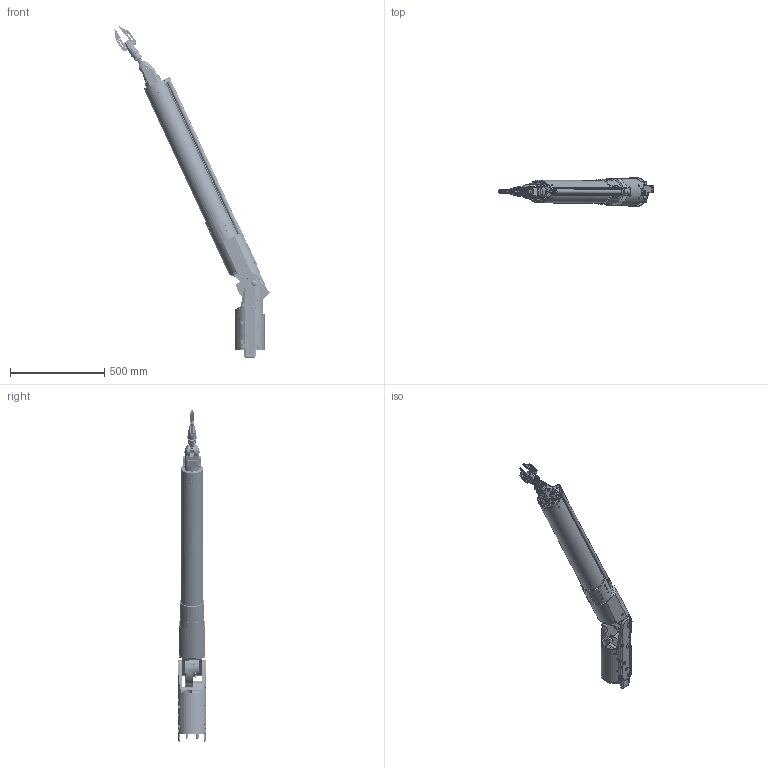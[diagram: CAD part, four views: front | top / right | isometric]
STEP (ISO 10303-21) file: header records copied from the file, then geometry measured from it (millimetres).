
FILE_DESCRIPTION( ( 'STEP AP214' ), '1' );
FILE_NAME( 'J:/SIT/Affaires 2006/06126/BRAS PYTHON 3.30 v2.step', '2006-12-21T08:14:20', ( ' ' ), ( ' ' ), 'XStep 1.0', ' ', ' ' );
FILE_SCHEMA( ( 'automotive_design' ) );
Length unit declared in the file: millimetre
Products named in the file (14): 1; 28; 116; 121; 239; 266; 267; 268; 269; 270; 271; 286; 383; 517
Bounding box: 824.02 x 150 x 1759.27 mm (x, y, z)
Volume: 12298325 mm3; surface area: 3119148 mm2
Topology: 14 solids, 80 shells, 7407 faces, 15191 edges, 8175 vertices
Faces by surface type: plane 5717, cylinder 1226, cone 369, torus 43, bspline 31, sphere 21
Full cylindrical faces by diameter (mm): 1 x2, 2 x6, 2.05 x6, 2.48 x2, 2.5 x9, 2.6 x2, 2.98 x16, 3 x15, 3.3 x33, 3.4 x30, 4 x52, 4.2 x11, 4.5 x42, 4.8 x3, 5 x26, 5.01 x26, 5.5 x44, 6 x9, 6.5 x3, 6.6 x16, 6.75 x3, 7 x13, 7.5 x1, 8 x24, 8.4 x29, 8.5 x9, 8.8 x3, 9 x19, 9.3 x2, 9.6 x2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
Entity records: 256557 total; most frequent: CARTESIAN_POINT 52797, DIRECTION 29884, ORIENTED_EDGE 26936, EDGE_CURVE 13468, LINE 10050, VECTOR 10050, AXIS2_PLACEMENT_3D 9917, EDGE_LOOP 9042
